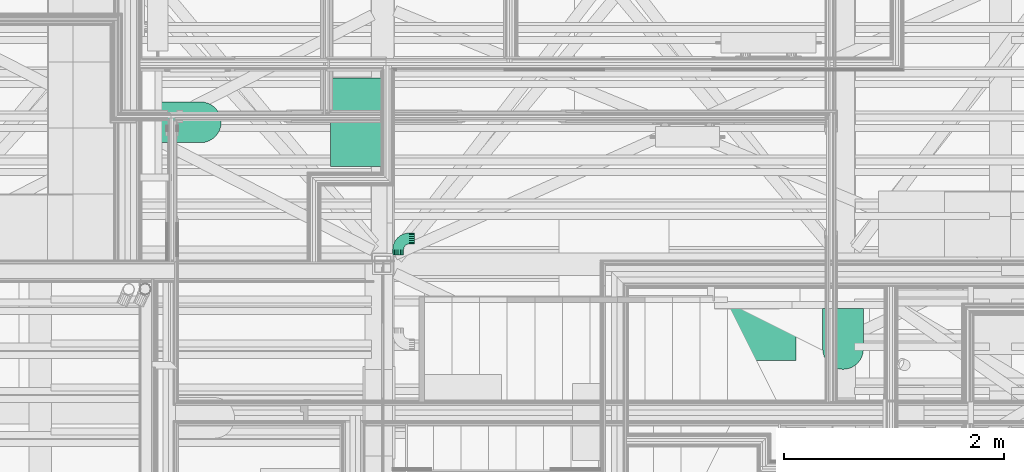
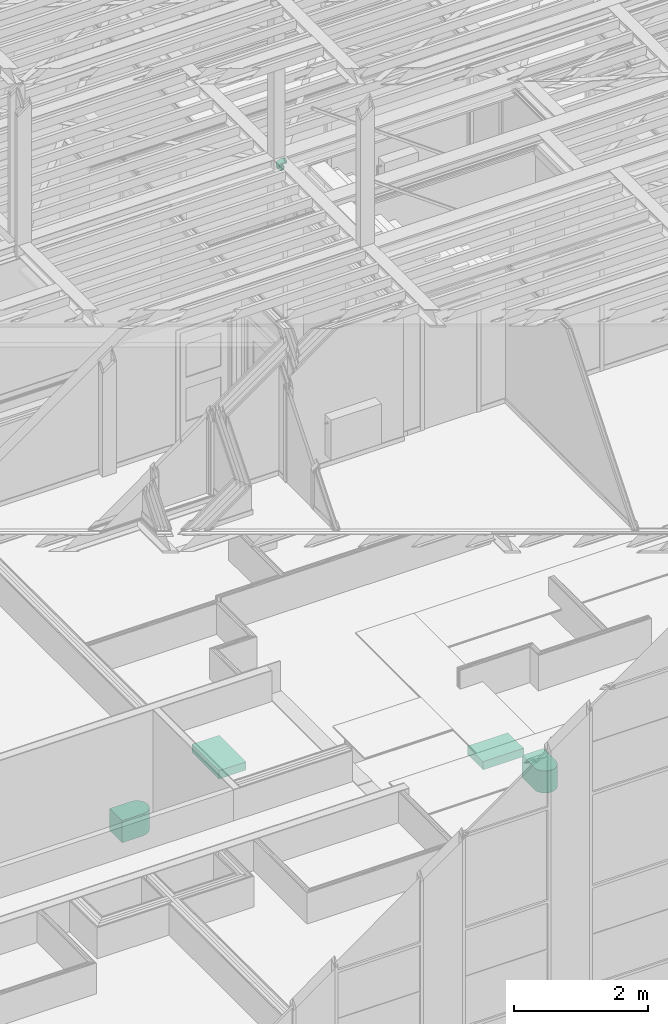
# One storey, part 178 of 183: 4 flow terminals, 1 flow fitting.
"""IFC2X3 building model written with IfcOpenShell, lengths in metres."""

from ifc_helpers import new_model, entity, si_unit, converted_unit, derived_unit, money_unit, direction, frame, origin_with_axes, place, context, subcontext, project, spatial, open_shell, faceted_brep, surface_model, material, type_object, element, save


model = new_model("IFC2X3")

# Units and contexts
model_context = context("Model", 3, precision=1e-05, world=origin_with_axes(), true_north=direction((0.0, 1.0)))
body_context = subcontext(model_context, "Body", "Model", "MODEL_VIEW", scale=1.0)
ifc_project = project(units=[si_unit("LENGTHUNIT", "METRE"), si_unit("AREAUNIT", "SQUARE_METRE"), si_unit("VOLUMEUNIT", "CUBIC_METRE"), si_unit("ABSORBEDDOSEUNIT", "GRAY"), si_unit("AMOUNTOFSUBSTANCEUNIT", "MOLE"), si_unit("DOSEEQUIVALENTUNIT", "SIEVERT"), si_unit("ELECTRICCAPACITANCEUNIT", "FARAD"), si_unit("ELECTRICCHARGEUNIT", "COULOMB"), si_unit("ELECTRICCONDUCTANCEUNIT", "SIEMENS"), si_unit("ELECTRICCURRENTUNIT", "AMPERE"), si_unit("ELECTRICRESISTANCEUNIT", "OHM"), si_unit("ELECTRICVOLTAGEUNIT", "VOLT"), si_unit("ENERGYUNIT", "JOULE"), si_unit("FORCEUNIT", "NEWTON"), si_unit("FREQUENCYUNIT", "HERTZ"), si_unit("ILLUMINANCEUNIT", "LUX"), si_unit("INDUCTANCEUNIT", "HENRY"), si_unit("LUMINOUSFLUXUNIT", "LUMEN"), si_unit("LUMINOUSINTENSITYUNIT", "CANDELA"), si_unit("MAGNETICFLUXDENSITYUNIT", "TESLA"), si_unit("MAGNETICFLUXUNIT", "WEBER"), si_unit("MASSUNIT", "GRAM"), converted_unit("PLANEANGLEUNIT", "degree", entity("IfcReal", 0.0174532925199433), si_unit("PLANEANGLEUNIT", "RADIAN"), dimensions=[0, 0, 0, 0, 0, 0, 0]), si_unit("POWERUNIT", "WATT"), si_unit("PRESSUREUNIT", "PASCAL"), si_unit("RADIOACTIVITYUNIT", "BECQUEREL"), si_unit("SOLIDANGLEUNIT", "STERADIAN"), si_unit("THERMODYNAMICTEMPERATUREUNIT", "KELVIN"), si_unit("TIMEUNIT", "SECOND"), derived_unit("ACCELERATIONUNIT", [(si_unit("LENGTHUNIT", "METRE"), 1), (si_unit("TIMEUNIT", "SECOND"), -2)]), derived_unit("ANGULARVELOCITYUNIT", [(converted_unit("PLANEANGLEUNIT", "degree", entity("IfcReal", 0.0174532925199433), si_unit("PLANEANGLEUNIT", "RADIAN"), dimensions=[0, 0, 0, 0, 0, 0, 0]), 1), (si_unit("TIMEUNIT", "SECOND"), -1)]), derived_unit("CURVATUREUNIT", [(converted_unit("PLANEANGLEUNIT", "degree", entity("IfcReal", 0.0174532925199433), si_unit("PLANEANGLEUNIT", "RADIAN"), dimensions=[0, 0, 0, 0, 0, 0, 0]), 1), (si_unit("LENGTHUNIT", "METRE"), -1)]), derived_unit("DYNAMICVISCOSITYUNIT", [(si_unit("PRESSUREUNIT", "PASCAL"), 1), (si_unit("TIMEUNIT", "SECOND"), 1)]), derived_unit("HEATFLUXDENSITYUNIT", [(si_unit("POWERUNIT", "WATT"), 1), (si_unit("LENGTHUNIT", "METRE"), -2)]), derived_unit("HEATINGVALUEUNIT", [(si_unit("ENERGYUNIT", "JOULE"), 1), (si_unit("MASSUNIT", "GRAM"), -1)]), derived_unit("INTEGERCOUNTRATEUNIT", [(si_unit("TIMEUNIT", "SECOND"), -1)]), derived_unit("IONCONCENTRATIONUNIT", [(si_unit("MASSUNIT", "GRAM"), 1), (si_unit("VOLUMEUNIT", "CUBIC_METRE"), -1)]), derived_unit("ISOTHERMALMOISTURECAPACITYUNIT", [(si_unit("VOLUMEUNIT", "CUBIC_METRE"), 1), (si_unit("MASSUNIT", "GRAM"), -1)]), derived_unit("KINEMATICVISCOSITYUNIT", [(si_unit("AREAUNIT", "SQUARE_METRE"), 1), (si_unit("TIMEUNIT", "SECOND"), -1)]), derived_unit("LINEARFORCEUNIT", [(si_unit("FORCEUNIT", "NEWTON"), 1), (si_unit("LENGTHUNIT", "METRE"), -1)]), derived_unit("LINEARMOMENTUNIT", [(si_unit("FORCEUNIT", "NEWTON"), 1), (si_unit("LENGTHUNIT", "METRE"), -1)]), derived_unit("LINEARSTIFFNESSUNIT", [(si_unit("FORCEUNIT", "NEWTON"), 1), (si_unit("LENGTHUNIT", "METRE"), -1)]), derived_unit("LINEARVELOCITYUNIT", [(si_unit("LENGTHUNIT", "METRE"), 1), (si_unit("TIMEUNIT", "SECOND"), -1)]), derived_unit("LUMINOUSINTENSITYDISTRIBUTIONUNIT", [(si_unit("LUMINOUSINTENSITYUNIT", "CANDELA"), 1), (si_unit("LUMINOUSFLUXUNIT", "LUMEN"), -1)]), derived_unit("MASSDENSITYUNIT", [(si_unit("MASSUNIT", "GRAM"), 1), (si_unit("VOLUMEUNIT", "CUBIC_METRE"), -1)]), derived_unit("MASSFLOWRATEUNIT", [(si_unit("MASSUNIT", "GRAM"), 1), (si_unit("TIMEUNIT", "SECOND"), -1)]), derived_unit("MASSPERLENGTHUNIT", [(si_unit("MASSUNIT", "GRAM"), 1), (si_unit("LENGTHUNIT", "METRE"), -1)]), derived_unit("MODULUSOFELASTICITYUNIT", [(si_unit("FORCEUNIT", "NEWTON"), 1), (si_unit("AREAUNIT", "SQUARE_METRE"), -1)]), derived_unit("MODULUSOFLINEARSUBGRADEREACTIONUNIT", [(si_unit("FORCEUNIT", "NEWTON"), 1), (si_unit("LENGTHUNIT", "METRE"), -2)]), derived_unit("MODULUSOFROTATIONALSUBGRADEREACTIONUNIT", [(si_unit("FORCEUNIT", "NEWTON"), 1), (si_unit("LENGTHUNIT", "METRE"), 1)]), derived_unit("MODULUSOFSUBGRADEREACTIONUNIT", [(si_unit("FORCEUNIT", "NEWTON"), 1), (si_unit("VOLUMEUNIT", "CUBIC_METRE"), -1)]), derived_unit("MOISTUREDIFFUSIVITYUNIT", [(si_unit("VOLUMEUNIT", "CUBIC_METRE"), 1), (si_unit("TIMEUNIT", "SECOND"), -1)]), derived_unit("MOLECULARWEIGHTUNIT", [(si_unit("MASSUNIT", "GRAM"), 1), (si_unit("AMOUNTOFSUBSTANCEUNIT", "MOLE"), -1)]), derived_unit("PLANARFORCEUNIT", [(si_unit("FORCEUNIT", "NEWTON"), 1), (si_unit("LENGTHUNIT", "METRE"), -2)]), derived_unit("ROTATIONALFREQUENCYUNIT", [(si_unit("TIMEUNIT", "SECOND"), -1)]), derived_unit("ROTATIONALMASSUNIT", [(si_unit("MASSUNIT", "GRAM"), 1), (si_unit("LENGTHUNIT", "METRE"), 2)]), derived_unit("ROTATIONALSTIFFNESSUNIT", [(si_unit("FORCEUNIT", "NEWTON"), 1), (si_unit("LENGTHUNIT", "METRE"), 1), (converted_unit("PLANEANGLEUNIT", "degree", entity("IfcReal", 0.0174532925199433), si_unit("PLANEANGLEUNIT", "RADIAN"), dimensions=[0, 0, 0, 0, 0, 0, 0]), -1)]), derived_unit("SECTIONAREAINTEGRALUNIT", [(si_unit("LENGTHUNIT", "METRE"), 5)]), derived_unit("SECTIONMODULUSUNIT", [(si_unit("LENGTHUNIT", "METRE"), 3)]), derived_unit("SHEARMODULUSUNIT", [(si_unit("FORCEUNIT", "NEWTON"), 1), (si_unit("AREAUNIT", "SQUARE_METRE"), -1)]), derived_unit("SOUNDPOWERUNIT", [(si_unit("ENERGYUNIT", "JOULE"), 1), (si_unit("TIMEUNIT", "SECOND"), -1)]), derived_unit("SPECIFICHEATCAPACITYUNIT", [(si_unit("FORCEUNIT", "NEWTON"), 1), (si_unit("MASSUNIT", "GRAM"), -1), (si_unit("THERMODYNAMICTEMPERATUREUNIT", "KELVIN"), -1)]), derived_unit("TEMPERATUREGRADIENTUNIT", [(si_unit("THERMODYNAMICTEMPERATUREUNIT", "KELVIN"), 1), (si_unit("LENGTHUNIT", "METRE"), -1)]), derived_unit("THERMALADMITTANCEUNIT", [(si_unit("POWERUNIT", "WATT"), 1), (si_unit("AREAUNIT", "SQUARE_METRE"), -1), (si_unit("THERMODYNAMICTEMPERATUREUNIT", "KELVIN"), -1)]), derived_unit("THERMALCONDUCTANCEUNIT", [(si_unit("POWERUNIT", "WATT"), 1), (si_unit("LENGTHUNIT", "METRE"), -1), (si_unit("THERMODYNAMICTEMPERATUREUNIT", "KELVIN"), -1)]), derived_unit("THERMALEXPANSIONCOEFFICIENTUNIT", [(si_unit("THERMODYNAMICTEMPERATUREUNIT", "KELVIN"), -1)]), derived_unit("THERMALRESISTANCEUNIT", [(si_unit("AREAUNIT", "SQUARE_METRE"), 1), (si_unit("POWERUNIT", "WATT"), -1)]), derived_unit("THERMALTRANSMITTANCEUNIT", [(si_unit("POWERUNIT", "WATT"), 1), (si_unit("AREAUNIT", "SQUARE_METRE"), -1), (si_unit("THERMODYNAMICTEMPERATUREUNIT", "KELVIN"), -1)]), derived_unit("TORQUEUNIT", [(si_unit("FORCEUNIT", "NEWTON"), 1), (si_unit("LENGTHUNIT", "METRE"), 1)]), derived_unit("VAPORPERMEABILITYUNIT", [(si_unit("MASSUNIT", "GRAM"), 1), (si_unit("TIMEUNIT", "SECOND"), -1)]), derived_unit("VOLUMETRICFLOWRATEUNIT", [(si_unit("VOLUMEUNIT", "CUBIC_METRE"), 1), (si_unit("TIMEUNIT", "SECOND"), -1)]), derived_unit("WARPINGCONSTANTUNIT", [(si_unit("LENGTHUNIT", "METRE"), 6)]), derived_unit("WARPINGMOMENTUNIT", [(si_unit("FORCEUNIT", "NEWTON"), 1), (si_unit("LENGTHUNIT", "METRE"), 2)]), money_unit("GBP")], contexts=[model_context])

# Site, building, storey, space
site_placement = place(None, origin_with_axes())
site = spatial("IfcSite", under=ifc_project, at=site_placement, Name="Site", CompositionType="ELEMENT")
building_placement = place(site_placement, origin_with_axes())
building = spatial("IfcBuilding", under=site, at=building_placement, Name="Building01", CompositionType="ELEMENT")
storey_placement = place(building_placement, frame((0.0, 0.0, 5.15), z_axis=(0.0, 0.0, 1.0), x_axis=(1.0, 0.0, 0.0)))
storey = spatial("IfcBuildingStorey", under=building, at=storey_placement, Name="1F", CompositionType="ELEMENT", Elevation=5.15)
space_1_placement = place(storey_placement, frame((18.239976, 7.549915, 9.81), z_axis=(0.0, 0.0, 1.0), x_axis=(0.0, 1.0, 0.0)))
space_1 = spatial("IfcSpace", under=storey, at=space_1_placement, Name="corridor (protected)", CompositionType="ELEMENT", InteriorOrExteriorSpace="NOTDEFINED")

# Flow fitting
ifc_material = material(Name="M_BSUK_Ventilation")
duct_fitting_type = type_object("IfcDuctFittingType", Name="M-Roundelbow-DefaultRound", PredefinedType="BEND")
placement = place(building_placement, origin_with_axes())
flow_fitting_placement = place(placement, frame((18.05, 8.932559, 17.28), z_axis=(-1.0, 0.0, 0.0), x_axis=(0.0, 1.0, 0.0)))
element("IfcFlowFitting", 1, at=flow_fitting_placement, inside=space_1, type_object=duct_fitting_type, material=ifc_material, Name="M-Roundelbow-DefaultRound", ObjectType="M-Roundelbow-DefaultRound", context=body_context, shape_type="SurfaceModel", body=[
    surface_model("IfcShellBasedSurfaceModel", [(0.008112, -0.01349, -0.048784), (0.0, -0.01349, -0.048146), (0.0, 0.0, -0.05), (0.007822, 0.0, -0.050616), (0.016024, -0.01349, -0.050684), (0.015451, 0.0, -0.052447), (0.023541, -0.01349, -0.053798), (0.0227, 0.0, -0.05545), (0.030479, -0.01349, -0.058049), (0.029389, 0.0, -0.059549), (0.036666, -0.01349, -0.063334), (0.035355, 0.0, -0.064645), (0.041951, -0.01349, -0.069521), (0.040451, 0.0, -0.070611), (0.046202, -0.01349, -0.076459), (0.04455, 0.0, -0.0773), (0.049316, -0.01349, -0.083976), (0.047553, 0.0, -0.084549), (0.051216, -0.01349, -0.091888), (0.049384, 0.0, -0.092178), (0.051854, -0.01349, -0.1), (0.05, 0.0, -0.1), (0.00896, -0.025979, -0.043426), (0.0, -0.025979, -0.042721), (0.0177, -0.025979, -0.045524), (0.026004, -0.025979, -0.048964), (0.033668, -0.025979, -0.05366), (0.040502, -0.025979, -0.059498), (0.04634, -0.025979, -0.066332), (0.051036, -0.025979, -0.073996), (0.054476, -0.025979, -0.0823), (0.056574, -0.025979, -0.09104), (0.057279, -0.025979, -0.1), (0.010305, -0.036542, -0.034939), (0.0, -0.036542, -0.034128), (0.020356, -0.036542, -0.037352), (0.029905, -0.036542, -0.041307), (0.038719, -0.036542, -0.046708), (0.046579, -0.036542, -0.053421), (0.053292, -0.036542, -0.061281), (0.058693, -0.036542, -0.070095), (0.062648, -0.036542, -0.079644), (0.065061, -0.036542, -0.089695), (0.065872, -0.036542, -0.1), (0.012045, -0.044394, -0.023951), (0.0, -0.044394, -0.023003), (0.023793, -0.044394, -0.026772), (0.034956, -0.044394, -0.031395), (0.045258, -0.044394, -0.037708), (0.054445, -0.044394, -0.045555), (0.062292, -0.044394, -0.054742), (0.068605, -0.044394, -0.065044), (0.073228, -0.044394, -0.076207), (0.076049, -0.044394, -0.087955), (0.076997, -0.044394, -0.1), (0.014052, -0.048954, -0.011279), (0.0, -0.048954, -0.010173), (0.027758, -0.048954, -0.014569), (0.040781, -0.048954, -0.019963), (0.052799, -0.048954, -0.027328), (0.063517, -0.048954, -0.036483), (0.072672, -0.048954, -0.047201), (0.080037, -0.048954, -0.059219), (0.085431, -0.048954, -0.072242), (0.088721, -0.048954, -0.085948), (0.089827, -0.048954, -0.1), (0.016177, -0.049883, 0.002139), (0.0, -0.049883, 0.003412), (0.031956, -0.049883, -0.001649), (0.046948, -0.049883, -0.007859), (0.060784, -0.049883, -0.016338), (0.073123, -0.049883, -0.026877), (0.083662, -0.049883, -0.039216), (0.092141, -0.049883, -0.053052), (0.098351, -0.049883, -0.068044), (0.102139, -0.049883, -0.083823), (0.103412, -0.049883, -0.1), (0.018263, -0.047113, 0.015307), (0.0, -0.047113, 0.016744), (0.036076, -0.047113, 0.01103), (0.053001, -0.047113, 0.00402), (0.06862, -0.047113, -0.005552), (0.08255, -0.047113, -0.01745), (0.094448, -0.047113, -0.03138), (0.10402, -0.047113, -0.046999), (0.11103, -0.047113, -0.063924), (0.115307, -0.047113, -0.081737), (0.116744, -0.047113, -0.1), (0.020154, -0.040848, 0.027248), (0.0, -0.040848, 0.028834), (0.039812, -0.040848, 0.022528), (0.058489, -0.040848, 0.014792), (0.075727, -0.040848, 0.004229), (0.091099, -0.040848, -0.008901), (0.104229, -0.040848, -0.024273), (0.114792, -0.040848, -0.041511), (0.122528, -0.040848, -0.060188), (0.127248, -0.040848, -0.079846), (0.128834, -0.040848, -0.1), (0.021711, -0.031554, 0.037077), (0.0, -0.031554, 0.038786), (0.042887, -0.031554, 0.031993), (0.063007, -0.031554, 0.023659), (0.081576, -0.031554, 0.01228), (0.098136, -0.031554, -0.001864), (0.11228, -0.031554, -0.018424), (0.123659, -0.031554, -0.036993), (0.131993, -0.031554, -0.057113), (0.137077, -0.031554, -0.078289), (0.138786, -0.031554, -0.1), (0.022818, -0.01992, 0.044065), (0.0, -0.01992, 0.045861), (0.045073, -0.01992, 0.038722), (0.066219, -0.01992, 0.029963), (0.085735, -0.01992, 0.018004), (0.103139, -0.01992, 0.003139), (0.118004, -0.01992, -0.014265), (0.129963, -0.01992, -0.033781), (0.138722, -0.01992, -0.054927), (0.144065, -0.01992, -0.077182), (0.145861, -0.01992, -0.1), (0.023392, -0.006808, 0.047693), (0.0, -0.006808, 0.049534), (0.046209, -0.006808, 0.042216), (0.067887, -0.006808, 0.033236), (0.087894, -0.006808, 0.020976), (0.105737, -0.006808, 0.005737), (0.120976, -0.006808, -0.012106), (0.133236, -0.006808, -0.032113), (0.142216, -0.006808, -0.053791), (0.147693, -0.006808, -0.076608), (0.149534, -0.006808, -0.1), (0.023392, 0.006808, 0.047693), (0.0, 0.006808, 0.049534), (0.046209, 0.006808, 0.042216), (0.067887, 0.006808, 0.033236), (0.087894, 0.006808, 0.020976), (0.105737, 0.006808, 0.005737), (0.120976, 0.006808, -0.012106), (0.133236, 0.006808, -0.032113), (0.142216, 0.006808, -0.053791), (0.147693, 0.006808, -0.076608), (0.149534, 0.006808, -0.1), (0.022818, 0.01992, 0.044065), (0.0, 0.01992, 0.045861), (0.045073, 0.01992, 0.038722), (0.066219, 0.01992, 0.029963), (0.085735, 0.01992, 0.018004), (0.103139, 0.01992, 0.003139), (0.118004, 0.01992, -0.014265), (0.129963, 0.01992, -0.033781), (0.138722, 0.01992, -0.054927), (0.144065, 0.01992, -0.077182), (0.145861, 0.01992, -0.1), (0.021711, 0.031554, 0.037077), (0.0, 0.031554, 0.038786), (0.042887, 0.031554, 0.031993), (0.063007, 0.031554, 0.023659), (0.081576, 0.031554, 0.01228), (0.098136, 0.031554, -0.001864), (0.11228, 0.031554, -0.018424), (0.123659, 0.031554, -0.036993), (0.131993, 0.031554, -0.057113), (0.137077, 0.031554, -0.078289), (0.138786, 0.031554, -0.1), (0.020154, 0.040848, 0.027248), (0.0, 0.040848, 0.028834), (0.039812, 0.040848, 0.022528), (0.058489, 0.040848, 0.014792), (0.075727, 0.040848, 0.004229), (0.091099, 0.040848, -0.008901), (0.104229, 0.040848, -0.024273), (0.114792, 0.040848, -0.041511), (0.122528, 0.040848, -0.060188), (0.127248, 0.040848, -0.079846), (0.128834, 0.040848, -0.1), (0.018263, 0.047113, 0.015307), (0.0, 0.047113, 0.016744), (0.036076, 0.047113, 0.01103), (0.053001, 0.047113, 0.00402), (0.06862, 0.047113, -0.005552), (0.08255, 0.047113, -0.01745), (0.094448, 0.047113, -0.03138), (0.10402, 0.047113, -0.046999), (0.11103, 0.047113, -0.063924), (0.115307, 0.047113, -0.081737), (0.116744, 0.047113, -0.1), (0.016177, 0.049883, 0.002139), (0.0, 0.049883, 0.003412), (0.031956, 0.049883, -0.001649), (0.046948, 0.049883, -0.007859), (0.060784, 0.049883, -0.016338), (0.073123, 0.049883, -0.026877), (0.083662, 0.049883, -0.039216), (0.092141, 0.049883, -0.053052), (0.098351, 0.049883, -0.068044), (0.102139, 0.049883, -0.083823), (0.103412, 0.049883, -0.1), (0.014052, 0.048954, -0.011279), (0.0, 0.048954, -0.010173), (0.027758, 0.048954, -0.014569), (0.040781, 0.048954, -0.019963), (0.052799, 0.048954, -0.027328), (0.063517, 0.048954, -0.036483), (0.072672, 0.048954, -0.047201), (0.080037, 0.048954, -0.059219), (0.085431, 0.048954, -0.072242), (0.088721, 0.048954, -0.085948), (0.089827, 0.048954, -0.1), (0.012045, 0.044394, -0.023951), (0.0, 0.044394, -0.023003), (0.023793, 0.044394, -0.026772), (0.034956, 0.044394, -0.031395), (0.045258, 0.044394, -0.037708), (0.054445, 0.044394, -0.045555), (0.062292, 0.044394, -0.054742), (0.068605, 0.044394, -0.065044), (0.073228, 0.044394, -0.076207), (0.076049, 0.044394, -0.087955), (0.076997, 0.044394, -0.1), (0.010305, 0.036542, -0.034939), (0.0, 0.036542, -0.034128), (0.020356, 0.036542, -0.037352), (0.029905, 0.036542, -0.041307), (0.038719, 0.036542, -0.046708), (0.046579, 0.036542, -0.053421), (0.053292, 0.036542, -0.061281), (0.058693, 0.036542, -0.070095), (0.062648, 0.036542, -0.079644), (0.065061, 0.036542, -0.089695), (0.065872, 0.036542, -0.1), (0.00896, 0.025979, -0.043426), (0.0, 0.025979, -0.042721), (0.0177, 0.025979, -0.045524), (0.026004, 0.025979, -0.048964), (0.033668, 0.025979, -0.05366), (0.040502, 0.025979, -0.059498), (0.04634, 0.025979, -0.066332), (0.051036, 0.025979, -0.073996), (0.054476, 0.025979, -0.0823), (0.056574, 0.025979, -0.09104), (0.057279, 0.025979, -0.1), (0.008112, 0.01349, -0.048784), (0.0, 0.01349, -0.048146), (0.016024, 0.01349, -0.050684), (0.023541, 0.01349, -0.053798), (0.030479, 0.01349, -0.058049), (0.036666, 0.01349, -0.063334), (0.041951, 0.01349, -0.069521), (0.046202, 0.01349, -0.076459), (0.049316, 0.01349, -0.083976), (0.051216, 0.01349, -0.091888), (0.051854, 0.01349, -0.1), (-0.05, 0.0, -0.05), (0.0, -0.019134, -0.046194), (-0.05, -0.019134, -0.046194), (0.0, -0.035355, -0.035355), (-0.05, -0.035355, -0.035355), (0.0, -0.046194, -0.019134), (-0.05, -0.046194, -0.019134), (0.0, -0.05, 0.0), (-0.05, -0.05, 0.0), (0.0, -0.046194, 0.019134), (-0.05, -0.046194, 0.019134), (0.0, -0.035355, 0.035355), (-0.05, -0.035355, 0.035355), (0.0, -0.019134, 0.046194), (-0.05, -0.019134, 0.046194), (0.0, 0.0, 0.05), (-0.05, 0.0, 0.05), (0.0, 0.019134, 0.046194), (-0.05, 0.019134, 0.046194), (0.0, 0.035355, 0.035355), (-0.05, 0.035355, 0.035355), (0.0, 0.046194, 0.019134), (-0.05, 0.046194, 0.019134), (0.0, 0.05, 0.0), (-0.05, 0.05, 0.0), (0.0, 0.046194, -0.019134), (-0.05, 0.046194, -0.019134), (0.0, 0.035355, -0.035355), (-0.05, 0.035355, -0.035355), (0.0, 0.019134, -0.046194), (-0.05, 0.019134, -0.046194), (0.05, 0.0, -0.15), (0.053806, 0.019134, -0.1), (0.053806, 0.019134, -0.15), (0.064645, 0.035355, -0.1), (0.064645, 0.035355, -0.15), (0.080866, 0.046194, -0.1), (0.080866, 0.046194, -0.15), (0.1, 0.05, -0.1), (0.1, 0.05, -0.15), (0.119134, 0.046194, -0.1), (0.119134, 0.046194, -0.15), (0.135355, 0.035355, -0.1), (0.135355, 0.035355, -0.15), (0.146194, 0.019134, -0.1), (0.146194, 0.019134, -0.15), (0.15, 0.0, -0.1), (0.15, 0.0, -0.15), (0.146194, -0.019134, -0.1), (0.146194, -0.019134, -0.15), (0.135355, -0.035355, -0.1), (0.135355, -0.035355, -0.15), (0.119134, -0.046194, -0.1), (0.119134, -0.046194, -0.15), (0.1, -0.05, -0.1), (0.1, -0.05, -0.15), (0.080866, -0.046194, -0.1), (0.080866, -0.046194, -0.15), (0.064645, -0.035355, -0.1), (0.064645, -0.035355, -0.15), (0.053806, -0.019134, -0.1), (0.053806, -0.019134, -0.15)], [open_shell([[[0, 1, 2, 3]], [[4, 0, 3, 5]], [[6, 4, 5, 7]], [[8, 6, 7, 9]], [[10, 8, 9, 11]], [[12, 10, 11, 13]], [[14, 12, 13, 15]], [[16, 14, 15, 17]], [[18, 16, 17, 19]], [[20, 18, 19, 21]], [[22, 23, 1, 0]], [[24, 22, 0, 4]], [[25, 24, 4, 6]], [[26, 25, 6, 8]], [[27, 26, 8, 10]], [[28, 27, 10, 12]], [[29, 28, 12, 14]], [[30, 29, 14, 16]], [[31, 30, 16, 18]], [[32, 31, 18, 20]], [[33, 34, 23, 22]], [[35, 33, 22, 24]], [[36, 35, 24, 25]], [[37, 36, 25, 26]], [[38, 37, 26, 27]], [[39, 38, 27, 28]], [[40, 39, 28, 29]], [[41, 40, 29, 30]], [[42, 41, 30, 31]], [[43, 42, 31, 32]], [[44, 45, 34, 33]], [[46, 44, 33, 35]], [[47, 46, 35, 36]], [[48, 47, 36, 37]], [[49, 48, 37, 38]], [[50, 49, 38, 39]], [[51, 50, 39, 40]], [[52, 51, 40, 41]], [[53, 52, 41, 42]], [[54, 53, 42, 43]], [[55, 56, 45, 44]], [[57, 55, 44, 46]], [[58, 57, 46, 47]], [[59, 58, 47, 48]], [[60, 59, 48, 49]], [[61, 60, 49, 50]], [[62, 61, 50, 51]], [[63, 62, 51, 52]], [[64, 63, 52, 53]], [[65, 64, 53, 54]], [[66, 67, 56, 55]], [[68, 66, 55, 57]], [[69, 68, 57, 58]], [[70, 69, 58, 59]], [[71, 70, 59, 60]], [[72, 71, 60, 61]], [[73, 72, 61, 62]], [[74, 73, 62, 63]], [[75, 74, 63, 64]], [[76, 75, 64, 65]], [[77, 78, 67, 66]], [[79, 77, 66, 68]], [[80, 79, 68, 69]], [[81, 80, 69, 70]], [[82, 81, 70, 71]], [[83, 82, 71, 72]], [[84, 83, 72, 73]], [[85, 84, 73, 74]], [[86, 85, 74, 75]], [[87, 86, 75, 76]], [[88, 89, 78, 77]], [[90, 88, 77, 79]], [[91, 90, 79, 80]], [[92, 91, 80, 81]], [[93, 92, 81, 82]], [[94, 93, 82, 83]], [[95, 94, 83, 84]], [[96, 95, 84, 85]], [[97, 96, 85, 86]], [[98, 97, 86, 87]], [[99, 100, 89, 88]], [[101, 99, 88, 90]], [[102, 101, 90, 91]], [[103, 102, 91, 92]], [[104, 103, 92, 93]], [[105, 104, 93, 94]], [[106, 105, 94, 95]], [[107, 106, 95, 96]], [[108, 107, 96, 97]], [[109, 108, 97, 98]], [[110, 111, 100, 99]], [[112, 110, 99, 101]], [[113, 112, 101, 102]], [[114, 113, 102, 103]], [[115, 114, 103, 104]], [[116, 115, 104, 105]], [[117, 116, 105, 106]], [[118, 117, 106, 107]], [[119, 118, 107, 108]], [[120, 119, 108, 109]], [[121, 122, 111, 110]], [[123, 121, 110, 112]], [[124, 123, 112, 113]], [[125, 124, 113, 114]], [[126, 125, 114, 115]], [[127, 126, 115, 116]], [[128, 127, 116, 117]], [[129, 128, 117, 118]], [[130, 129, 118, 119]], [[131, 130, 119, 120]], [[132, 133, 122, 121]], [[134, 132, 121, 123]], [[135, 134, 123, 124]], [[136, 135, 124, 125]], [[137, 136, 125, 126]], [[138, 137, 126, 127]], [[139, 138, 127, 128]], [[140, 139, 128, 129]], [[141, 140, 129, 130]], [[142, 141, 130, 131]], [[143, 144, 133, 132]], [[145, 143, 132, 134]], [[146, 145, 134, 135]], [[147, 146, 135, 136]], [[148, 147, 136, 137]], [[149, 148, 137, 138]], [[150, 149, 138, 139]], [[151, 150, 139, 140]], [[152, 151, 140, 141]], [[153, 152, 141, 142]], [[154, 155, 144, 143]], [[156, 154, 143, 145]], [[157, 156, 145, 146]], [[158, 157, 146, 147]], [[159, 158, 147, 148]], [[160, 159, 148, 149]], [[161, 160, 149, 150]], [[162, 161, 150, 151]], [[163, 162, 151, 152]], [[164, 163, 152, 153]], [[165, 166, 155, 154]], [[167, 165, 154, 156]], [[168, 167, 156, 157]], [[169, 168, 157, 158]], [[170, 169, 158, 159]], [[171, 170, 159, 160]], [[172, 171, 160, 161]], [[173, 172, 161, 162]], [[174, 173, 162, 163]], [[175, 174, 163, 164]], [[176, 177, 166, 165]], [[178, 176, 165, 167]], [[179, 178, 167, 168]], [[180, 179, 168, 169]], [[181, 180, 169, 170]], [[182, 181, 170, 171]], [[183, 182, 171, 172]], [[184, 183, 172, 173]], [[185, 184, 173, 174]], [[186, 185, 174, 175]], [[187, 188, 177, 176]], [[189, 187, 176, 178]], [[190, 189, 178, 179]], [[191, 190, 179, 180]], [[192, 191, 180, 181]], [[193, 192, 181, 182]], [[194, 193, 182, 183]], [[195, 194, 183, 184]], [[196, 195, 184, 185]], [[197, 196, 185, 186]], [[198, 199, 188, 187]], [[200, 198, 187, 189]], [[201, 200, 189, 190]], [[202, 201, 190, 191]], [[203, 202, 191, 192]], [[204, 203, 192, 193]], [[205, 204, 193, 194]], [[206, 205, 194, 195]], [[207, 206, 195, 196]], [[208, 207, 196, 197]], [[209, 210, 199, 198]], [[211, 209, 198, 200]], [[212, 211, 200, 201]], [[213, 212, 201, 202]], [[214, 213, 202, 203]], [[215, 214, 203, 204]], [[216, 215, 204, 205]], [[217, 216, 205, 206]], [[218, 217, 206, 207]], [[219, 218, 207, 208]], [[220, 221, 210, 209]], [[222, 220, 209, 211]], [[223, 222, 211, 212]], [[224, 223, 212, 213]], [[225, 224, 213, 214]], [[226, 225, 214, 215]], [[227, 226, 215, 216]], [[228, 227, 216, 217]], [[229, 228, 217, 218]], [[230, 229, 218, 219]], [[231, 232, 221, 220]], [[233, 231, 220, 222]], [[234, 233, 222, 223]], [[235, 234, 223, 224]], [[236, 235, 224, 225]], [[237, 236, 225, 226]], [[238, 237, 226, 227]], [[239, 238, 227, 228]], [[240, 239, 228, 229]], [[241, 240, 229, 230]], [[242, 243, 232, 231]], [[244, 242, 231, 233]], [[245, 244, 233, 234]], [[246, 245, 234, 235]], [[247, 246, 235, 236]], [[248, 247, 236, 237]], [[249, 248, 237, 238]], [[250, 249, 238, 239]], [[251, 250, 239, 240]], [[252, 251, 240, 241]], [[3, 2, 243, 242]], [[5, 3, 242, 244]], [[7, 5, 244, 245]], [[9, 7, 245, 246]], [[11, 9, 246, 247]], [[13, 11, 247, 248]], [[15, 13, 248, 249]], [[17, 15, 249, 250]], [[19, 17, 250, 251]], [[21, 19, 251, 252]], [[253, 2, 254, 255]], [[255, 254, 256, 257]], [[257, 256, 258, 259]], [[259, 258, 260, 261]], [[261, 260, 262, 263]], [[263, 262, 264, 265]], [[265, 264, 266, 267]], [[267, 266, 268, 269]], [[269, 268, 270, 271]], [[271, 270, 272, 273]], [[273, 272, 274, 275]], [[275, 274, 276, 277]], [[277, 276, 278, 279]], [[279, 278, 280, 281]], [[281, 280, 282, 283]], [[283, 282, 2, 253]], [[284, 21, 285, 286]], [[286, 285, 287, 288]], [[288, 287, 289, 290]], [[290, 289, 291, 292]], [[292, 291, 293, 294]], [[294, 293, 295, 296]], [[296, 295, 297, 298]], [[298, 297, 299, 300]], [[300, 299, 301, 302]], [[302, 301, 303, 304]], [[304, 303, 305, 306]], [[306, 305, 307, 308]], [[308, 307, 309, 310]], [[310, 309, 311, 312]], [[312, 311, 313, 314]], [[314, 313, 21, 284]]])]),
])

# Space
space_2_placement = place(storey_placement, frame((15.83, 8.82, 0.017975), z_axis=(0.0, 0.0, 1.0), x_axis=(0.0, -1.0, 0.0)))
space_2 = spatial("IfcSpace", under=storey, at=space_2_placement, Name="02", CompositionType="ELEMENT", InteriorOrExteriorSpace="NOTDEFINED")

# Flow terminal
sanitary_terminal_type_1 = type_object("IfcSanitaryTerminalType", Name="SHE_A-Sink_47x80", PredefinedType="NOTDEFINED")
flow_terminal_1_placement = place(storey_placement, frame((17.67, 10.087491, 0.825), z_axis=(0.0, 0.0, 1.0), x_axis=(1.0, 0.0, 0.0)))
element("IfcFlowTerminal", 2, at=flow_terminal_1_placement, inside=space_2, type_object=sanitary_terminal_type_1, Name="02", ObjectType="SHE_A-Sink_47x80", context=body_context, shape_type="Brep", body=[
    faceted_brep([(-0.235, 0.4, -0.075), (-0.235, 0.4, 0.075), (0.235, 0.4, 0.075), (0.235, 0.4, -0.075), (-0.235, -0.4, -0.075), (-0.235, -0.4, 0.075), (0.235, -0.4, -0.075), (0.235, -0.4, 0.075)], [[[0, 1, 2, 3]], [[4, 5, 1, 0]], [[6, 7, 5, 4]], [[3, 2, 7, 6]], [[1, 5, 7, 2]], [[3, 6, 4, 0]]]),
])

# Space
space_3_placement = place(storey_placement, frame((20.122661, 5.205, 0.017975), z_axis=(0.0, 0.0, 1.0), x_axis=(1.0, 0.0, 0.0)))
space_3 = spatial("IfcSpace", under=storey, at=space_3_placement, Name="03", CompositionType="ELEMENT", InteriorOrExteriorSpace="NOTDEFINED")

# Flow terminal
sanitary_terminal_type_2 = type_object("IfcSanitaryTerminalType", Name="SHE_A-Toilet_base", PredefinedType="NOTDEFINED")
flow_terminal_2_placement = place(storey_placement, frame((22.088153, 8.119998, 0.2), z_axis=(0.0, 0.0, 1.0), x_axis=(0.0, -1.0, 0.0)))
element("IfcFlowTerminal", 3, at=flow_terminal_2_placement, inside=space_3, type_object=sanitary_terminal_type_2, Name="03", ObjectType="SHE_A-Toilet_base", context=body_context, shape_type="Brep", body=[
    faceted_brep([(0.089995, 0.185008, -0.2), (0.126088, 0.181454, -0.2), (0.160795, 0.170926, -0.2), (0.19278, 0.153829, -0.2), (0.220816, 0.130821, -0.2), (0.243824, 0.102785, -0.2), (0.26092, 0.0708, -0.2), (0.271448, 0.036093, -0.2), (0.275003, 0.0, -0.2), (0.271448, -0.036093, -0.2), (0.26092, -0.0708, -0.2), (0.243824, -0.102785, -0.2), (0.220816, -0.130821, -0.2), (0.19278, -0.153829, -0.2), (0.160795, -0.170926, -0.2), (0.126088, -0.181454, -0.2), (0.089995, -0.185009, -0.2), (-0.275003, -0.185009, -0.2), (-0.275003, 0.185008, -0.2), (-0.275003, 0.185008, 0.2), (-0.275003, -0.185009, 0.2), (0.089995, -0.185009, 0.2), (0.126088, -0.181454, 0.2), (0.160795, -0.170926, 0.2), (0.19278, -0.153829, 0.2), (0.220816, -0.130821, 0.2), (0.243824, -0.102785, 0.2), (0.26092, -0.0708, 0.2), (0.271448, -0.036093, 0.2), (0.275003, 0.0, 0.2), (0.271448, 0.036093, 0.2), (0.26092, 0.0708, 0.2), (0.243824, 0.102785, 0.2), (0.220816, 0.130821, 0.2), (0.19278, 0.153829, 0.2), (0.160795, 0.170926, 0.2), (0.126088, 0.181454, 0.2), (0.089995, 0.185008, 0.2)], [[[0, 1, 2, 3, 4, 5, 6, 7, 8, 9, 10, 11, 12, 13, 14, 15, 16, 17, 18]], [[19, 20, 21, 22, 23, 24, 25, 26, 27, 28, 29, 30, 31, 32, 33, 34, 35, 36, 37]], [[15, 22, 21, 16]], [[14, 23, 22, 15]], [[13, 24, 23, 14]], [[12, 25, 24, 13]], [[11, 26, 25, 12]], [[10, 27, 26, 11]], [[9, 28, 27, 10]], [[8, 29, 28, 9]], [[7, 30, 29, 8]], [[6, 31, 30, 7]], [[5, 32, 31, 6]], [[4, 33, 32, 5]], [[3, 34, 33, 4]], [[2, 35, 34, 3]], [[1, 36, 35, 2]], [[0, 37, 36, 1]], [[16, 21, 20, 17]], [[17, 20, 19, 18]], [[18, 19, 37, 0]]]),
])

# Space
space_4_placement = place(storey_placement, frame((15.708132, 10.57, 0.017975), z_axis=(0.0, 0.0, 1.0), x_axis=(0.0, -1.0, 0.0)))
space_4 = spatial("IfcSpace", under=storey, at=space_4_placement, Name="ensuite", CompositionType="ELEMENT", InteriorOrExteriorSpace="NOTDEFINED")

# Flow terminals
flow_terminal_3_placement = place(storey_placement, frame((16.168135, 10.087492, 0.2), z_axis=(0.0, 0.0, 1.0), x_axis=(1.0, 0.0, 0.0)))
element("IfcFlowTerminal", 4, at=flow_terminal_3_placement, inside=space_4, type_object=sanitary_terminal_type_2, Name="02", ObjectType="SHE_A-Toilet_base", context=body_context, shape_type="Brep", body=[
    faceted_brep([(0.089995, 0.185008, -0.2), (0.126088, 0.181454, -0.2), (0.160795, 0.170926, -0.2), (0.19278, 0.153829, -0.2), (0.220816, 0.130821, -0.2), (0.243824, 0.102785, -0.2), (0.26092, 0.0708, -0.2), (0.271448, 0.036093, -0.2), (0.275003, 0.0, -0.2), (0.271448, -0.036093, -0.2), (0.26092, -0.0708, -0.2), (0.243824, -0.102785, -0.2), (0.220816, -0.130821, -0.2), (0.19278, -0.153829, -0.2), (0.160795, -0.170926, -0.2), (0.126088, -0.181454, -0.2), (0.089995, -0.185009, -0.2), (-0.275003, -0.185009, -0.2), (-0.275003, 0.185008, -0.2), (-0.275003, 0.185008, 0.2), (-0.275003, -0.185009, 0.2), (0.089995, -0.185009, 0.2), (0.126088, -0.181454, 0.2), (0.160795, -0.170926, 0.2), (0.19278, -0.153829, 0.2), (0.220816, -0.130821, 0.2), (0.243824, -0.102785, 0.2), (0.26092, -0.0708, 0.2), (0.271448, -0.036093, 0.2), (0.275003, 0.0, 0.2), (0.271448, 0.036093, 0.2), (0.26092, 0.0708, 0.2), (0.243824, 0.102785, 0.2), (0.220816, 0.130821, 0.2), (0.19278, 0.153829, 0.2), (0.160795, 0.170926, 0.2), (0.126088, 0.181454, 0.2), (0.089995, 0.185008, 0.2)], [[[0, 1, 2, 3, 4, 5, 6, 7, 8, 9, 10, 11, 12, 13, 14, 15, 16, 17, 18]], [[19, 20, 21, 22, 23, 24, 25, 26, 27, 28, 29, 30, 31, 32, 33, 34, 35, 36, 37]], [[15, 22, 21, 16]], [[14, 23, 22, 15]], [[13, 24, 23, 14]], [[12, 25, 24, 13]], [[11, 26, 25, 12]], [[10, 27, 26, 11]], [[9, 28, 27, 10]], [[8, 29, 28, 9]], [[7, 30, 29, 8]], [[6, 31, 30, 7]], [[5, 32, 31, 6]], [[4, 33, 32, 5]], [[3, 34, 33, 4]], [[2, 35, 34, 3]], [[1, 36, 35, 2]], [[0, 37, 36, 1]], [[16, 21, 20, 17]], [[17, 20, 19, 18]], [[18, 19, 37, 0]]]),
])
sanitary_terminal_type_3 = type_object("IfcSanitaryTerminalType", Name="SHE_A-Sink_47x70", PredefinedType="NOTDEFINED")
flow_terminal_4_placement = place(storey_placement, frame((21.311162, 8.160003, 0.825), z_axis=(0.0, 0.0, 1.0), x_axis=(0.0, -1.0, 0.0)))
element("IfcFlowTerminal", 5, at=flow_terminal_4_placement, inside=space_3, type_object=sanitary_terminal_type_3, Name="03", ObjectType="SHE_A-Sink_47x70", context=body_context, shape_type="Brep", body=[
    faceted_brep([(-0.235, 0.35, -0.075), (-0.235, 0.35, 0.075), (0.235, 0.35, 0.075), (0.235, 0.35, -0.075), (0.235, -0.35, 0.075), (0.235, -0.35, -0.075), (-0.235, -0.35, 0.075), (-0.235, -0.35, -0.075)], [[[0, 1, 2, 3]], [[3, 2, 4, 5]], [[5, 4, 6, 7]], [[7, 6, 1, 0]], [[1, 6, 4, 2]], [[3, 5, 7, 0]]]),
])

save(model, "model.ifc")
